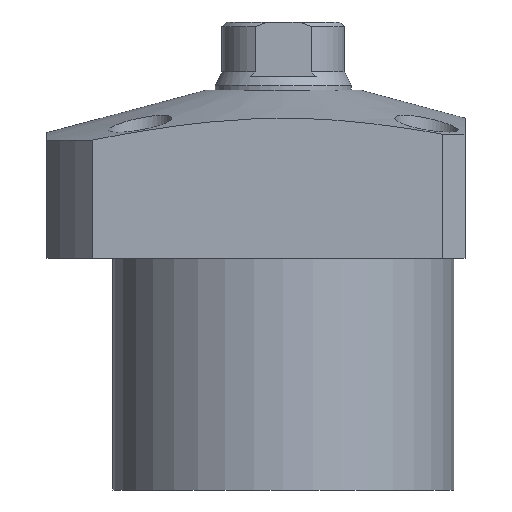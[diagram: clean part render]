
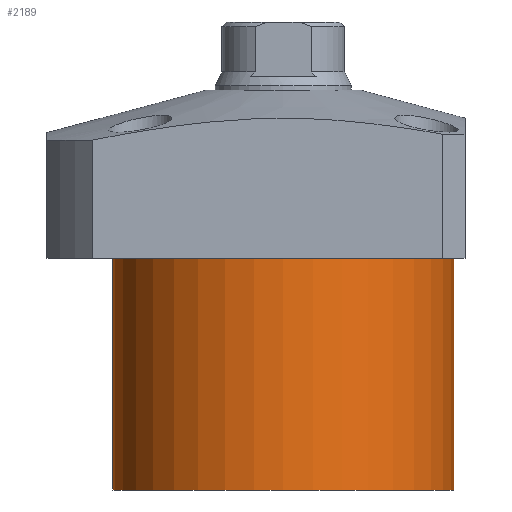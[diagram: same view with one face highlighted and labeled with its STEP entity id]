
A CAD part, front view. The second image highlights one B-rep face of the part: STEP entity #2189.
In plain terms, the highlighted cylindrical face has radius 37.5 mm (diameter 75 mm), a partial arc.
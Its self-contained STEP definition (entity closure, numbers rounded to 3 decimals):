
#46 = VERTEX_POINT ( 'NONE', #758 ) ;
#107 = EDGE_LOOP ( 'NONE', ( #1204, #2504, #2400, #669 ) ) ;
#181 = LINE ( 'NONE', #484, #1193 ) ;
#193 = EDGE_CURVE ( 'NONE', #2099, #46, #1847, .T. ) ;
#241 = CARTESIAN_POINT ( 'NONE',  ( 0., 0., -18.5 ) ) ;
#253 = DIRECTION ( 'NONE',  ( 0., 0., 1. ) ) ;
#333 = CIRCLE ( 'NONE', #1141, 37.5 ) ;
#368 = CARTESIAN_POINT ( 'NONE',  ( 0., 0., -69.5 ) ) ;
#372 = AXIS2_PLACEMENT_3D ( 'NONE', #1106, #1485, #1091 ) ;
#431 = CARTESIAN_POINT ( 'NONE',  ( -37.5, 0., -18.5 ) ) ;
#484 = CARTESIAN_POINT ( 'NONE',  ( -37.5, 0., -69.5 ) ) ;
#636 = CARTESIAN_POINT ( 'NONE',  ( -37.5, 0., -69.5 ) ) ;
#648 = CARTESIAN_POINT ( 'NONE',  ( 37.5, 0., -69.5 ) ) ;
#669 = ORIENTED_EDGE ( 'NONE', *, *, #2354, .T. ) ;
#713 = CARTESIAN_POINT ( 'NONE',  ( 37.5, 0., -69.5 ) ) ;
#758 = CARTESIAN_POINT ( 'NONE',  ( 37.5, 0., -18.5 ) ) ;
#771 = VERTEX_POINT ( 'NONE', #431 ) ;
#773 = DIRECTION ( 'NONE',  ( -1., 0., 0. ) ) ;
#1091 = DIRECTION ( 'NONE',  ( 1., 0., 0. ) ) ;
#1106 = CARTESIAN_POINT ( 'NONE',  ( 0., 0., -69.5 ) ) ;
#1131 = EDGE_CURVE ( 'NONE', #2000, #771, #181, .T. ) ;
#1141 = AXIS2_PLACEMENT_3D ( 'NONE', #241, #2062, #1845 ) ;
#1193 = VECTOR ( 'NONE', #1282, 1000. ) ;
#1204 = ORIENTED_EDGE ( 'NONE', *, *, #1131, .F. ) ;
#1281 = CIRCLE ( 'NONE', #1467, 37.5 ) ;
#1282 = DIRECTION ( 'NONE',  ( 0., 0., 1. ) ) ;
#1324 = VECTOR ( 'NONE', #253, 1000. ) ;
#1374 = FACE_OUTER_BOUND ( 'NONE', #107, .T. ) ;
#1467 = AXIS2_PLACEMENT_3D ( 'NONE', #368, #2334, #773 ) ;
#1485 = DIRECTION ( 'NONE',  ( 0., 0., 1. ) ) ;
#1845 = DIRECTION ( 'NONE',  ( 1., 0., 0. ) ) ;
#1847 = LINE ( 'NONE', #648, #1324 ) ;
#1894 = EDGE_CURVE ( 'NONE', #2099, #2000, #1281, .T. ) ;
#1952 = CYLINDRICAL_SURFACE ( 'NONE', #372, 37.5 ) ;
#2000 = VERTEX_POINT ( 'NONE', #636 ) ;
#2062 = DIRECTION ( 'NONE',  ( 0., 0., -1. ) ) ;
#2099 = VERTEX_POINT ( 'NONE', #713 ) ;
#2189 = ADVANCED_FACE ( 'NONE', ( #1374 ), #1952, .T. ) ;
#2334 = DIRECTION ( 'NONE',  ( 0., 0., -1. ) ) ;
#2354 = EDGE_CURVE ( 'NONE', #46, #771, #333, .T. ) ;
#2400 = ORIENTED_EDGE ( 'NONE', *, *, #193, .T. ) ;
#2504 = ORIENTED_EDGE ( 'NONE', *, *, #1894, .F. ) ;
